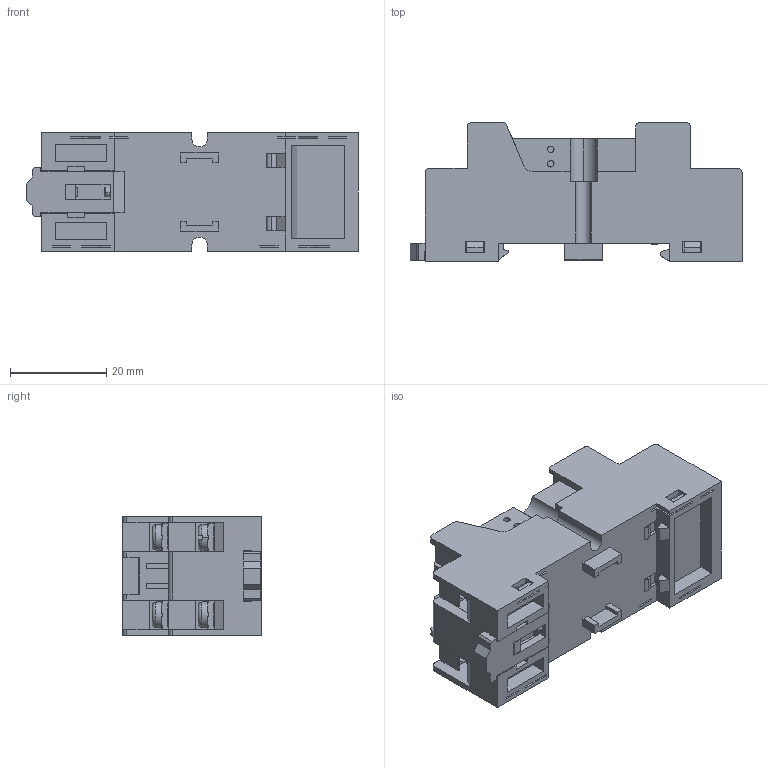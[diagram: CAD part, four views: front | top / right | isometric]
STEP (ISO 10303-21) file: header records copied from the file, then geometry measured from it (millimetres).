
FILE_DESCRIPTION (( 'STEP AP203' ), '1' );
FILE_NAME ('SKF08-E 俋倛.STEP', '2023-01-29T06:42:42', ( '' ), ( '' ), 'SwSTEP 2.0', 'SolidWorks 2018', '' );
FILE_SCHEMA (( 'CONFIG_CONTROL_DESIGN' ));
Length unit declared in the file: millimetre
Products named in the file (1): SKF08-E 俋倛
Bounding box: 69.06 x 28.9 x 24.7 mm (x, y, z)
Volume: 31064.8 mm3; surface area: 13178.9 mm2
Topology: 1 solids, 1 shells, 1452 faces, 4121 edges, 2679 vertices
Faces by surface type: plane 964, cylinder 326, torus 114, cone 48
Entity records: 50220 total; most frequent: CARTESIAN_POINT 12505, ORIENTED_EDGE 8210, DIRECTION 7478, EDGE_CURVE 4105, VERTEX_POINT 2679, VECTOR 2648, LINE 2648, AXIS2_PLACEMENT_3D 2415
